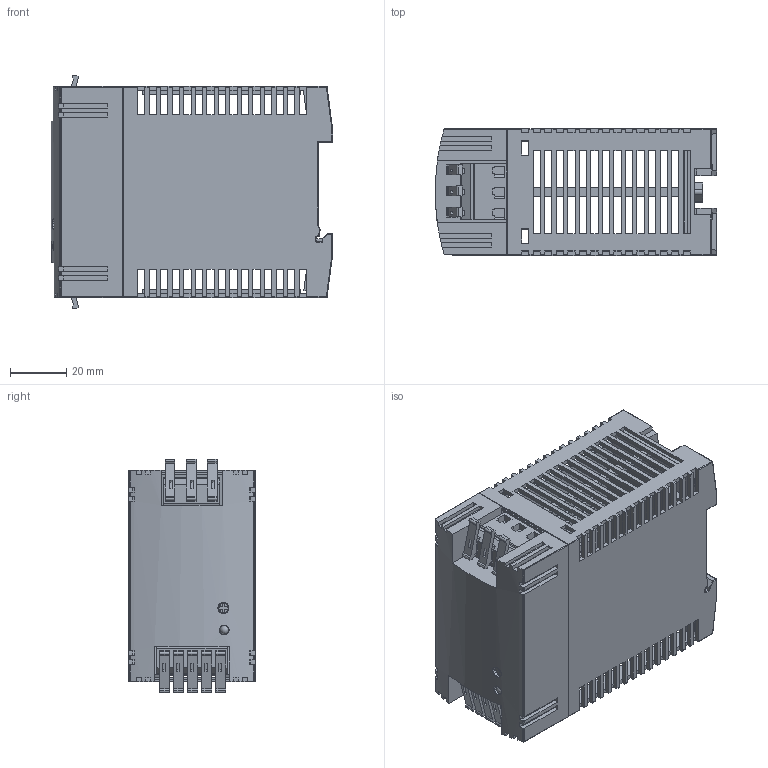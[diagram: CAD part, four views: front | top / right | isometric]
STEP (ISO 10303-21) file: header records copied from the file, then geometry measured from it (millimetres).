
FILE_DESCRIPTION(/* description */ ('Unknown'),/* implementation_level */ '2;1');
FILE_NAME(/* name */ 'TCL 060-124_C',/* time_stamp */ '2020-11-24T13:01:29+00:00',/* author */ ('Unknown'),/* organization */ ('Unknown'),/* preprocessor_version */ 'ST-DEVELOPER v16.7',/* originating_system */ 'Solid Edge',/* authorisation */ 'Unknown');
FILE_SCHEMA (('AUTOMOTIVE_DESIGN {1 0 10303 214 3 1 1}'));
Products named in the file (1): TCL 060-124_C
Bounding box: 99.91 x 45.04 x 82.95 mm (x, y, z)
Volume: 56377.9 mm3; surface area: 63475.2 mm2
Topology: 2 solids, 2 shells, 1510 faces, 4733 edges, 3032 vertices
Faces by surface type: plane 1317, cylinder 172, sphere 11, torus 4, cone 4, bspline 2
Full cylindrical faces by diameter (mm): 0.305 x2, 0.5 x2, 0.508 x3, 3 x1, 3.708 x1, 3.861 x1, 5.41 x1, 6.401 x1, 6.502 x1
Entity records: 62912 total; most frequent: CARTESIAN_POINT 9843, ORIENTED_EDGE 9384, DIRECTION 8192, EDGE_CURVE 4692, LINE 4192, VECTOR 4192, VERTEX_POINT 3022, AXIS2_PLACEMENT_3D 2000
